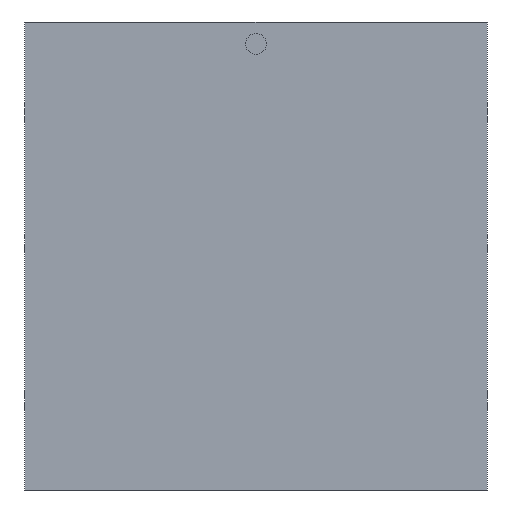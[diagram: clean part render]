
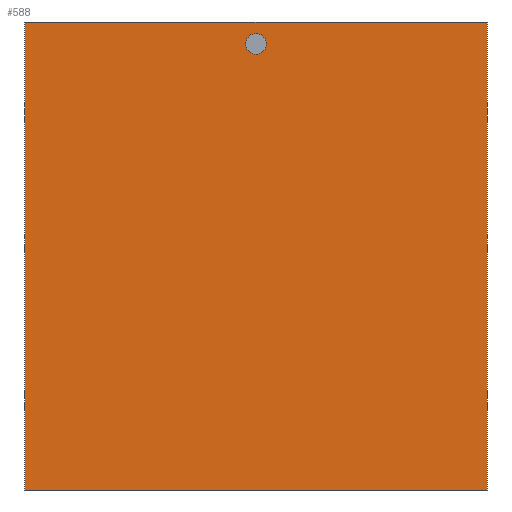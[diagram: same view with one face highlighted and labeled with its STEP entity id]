
A CAD part, front view. The second image highlights one B-rep face of the part: STEP entity #588.
In plain terms, the highlighted planar face has unit normal (0, -1, 0).
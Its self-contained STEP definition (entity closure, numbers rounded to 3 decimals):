
#9 = LINE ( 'NONE', #208, #971 ) ;
#24 = PLANE ( 'NONE',  #313 ) ;
#141 = VERTEX_POINT ( 'NONE', #398 ) ;
#159 = AXIS2_PLACEMENT_3D ( 'NONE', #1360, #1021, #1376 ) ;
#191 = DIRECTION ( 'NONE',  ( 0., 0., -1. ) ) ;
#208 = CARTESIAN_POINT ( 'NONE',  ( 0., 0., 0. ) ) ;
#256 = VERTEX_POINT ( 'NONE', #847 ) ;
#261 = DIRECTION ( 'NONE',  ( 0., 0., -1. ) ) ;
#270 = DIRECTION ( 'NONE',  ( -1., 0., 0. ) ) ;
#277 = VERTEX_POINT ( 'NONE', #1313 ) ;
#313 = AXIS2_PLACEMENT_3D ( 'NONE', #480, #1258, #261 ) ;
#345 = CARTESIAN_POINT ( 'NONE',  ( 40., 0., -5.6 ) ) ;
#367 = ORIENTED_EDGE ( 'NONE', *, *, #760, .F. ) ;
#379 = LINE ( 'NONE', #932, #997 ) ;
#395 = CARTESIAN_POINT ( 'NONE',  ( 0., 0., -81. ) ) ;
#398 = CARTESIAN_POINT ( 'NONE',  ( 40., 0., -2. ) ) ;
#408 = CARTESIAN_POINT ( 'NONE',  ( 0., 0., 0. ) ) ;
#416 = VECTOR ( 'NONE', #984, 1000. ) ;
#432 = CARTESIAN_POINT ( 'NONE',  ( 80., 0., 0. ) ) ;
#480 = CARTESIAN_POINT ( 'NONE',  ( 0., 0., 0. ) ) ;
#494 = LINE ( 'NONE', #432, #416 ) ;
#522 = FACE_OUTER_BOUND ( 'NONE', #904, .T. ) ;
#588 = ADVANCED_FACE ( 'NONE', ( #1162, #522 ), #24, .T. ) ;
#628 = DIRECTION ( 'NONE',  ( 0., -1., 0. ) ) ;
#641 = EDGE_CURVE ( 'NONE', #666, #256, #733, .T. ) ;
#666 = VERTEX_POINT ( 'NONE', #395 ) ;
#718 = EDGE_CURVE ( 'NONE', #1406, #666, #379, .T. ) ;
#733 = LINE ( 'NONE', #408, #1035 ) ;
#760 = EDGE_CURVE ( 'NONE', #141, #1113, #982, .T. ) ;
#800 = CIRCLE ( 'NONE', #159, 1.8 ) ;
#830 = DIRECTION ( 'NONE',  ( 0., 0., 1. ) ) ;
#847 = CARTESIAN_POINT ( 'NONE',  ( 0., 0., 0. ) ) ;
#866 = EDGE_CURVE ( 'NONE', #277, #1406, #494, .T. ) ;
#894 = CARTESIAN_POINT ( 'NONE',  ( 80., 0., -81. ) ) ;
#904 = EDGE_LOOP ( 'NONE', ( #1370, #1394, #1283, #1456 ) ) ;
#932 = CARTESIAN_POINT ( 'NONE',  ( 0., 0., -81. ) ) ;
#971 = VECTOR ( 'NONE', #991, 1000. ) ;
#977 = EDGE_CURVE ( 'NONE', #256, #277, #9, .T. ) ;
#982 = CIRCLE ( 'NONE', #1238, 1.8 ) ;
#984 = DIRECTION ( 'NONE',  ( 0., 0., -1. ) ) ;
#991 = DIRECTION ( 'NONE',  ( 1., 0., 0. ) ) ;
#997 = VECTOR ( 'NONE', #270, 1000. ) ;
#1021 = DIRECTION ( 'NONE',  ( 0., -1., 0. ) ) ;
#1022 = EDGE_CURVE ( 'NONE', #1113, #141, #800, .T. ) ;
#1025 = EDGE_LOOP ( 'NONE', ( #1345, #367 ) ) ;
#1035 = VECTOR ( 'NONE', #830, 1000. ) ;
#1084 = CARTESIAN_POINT ( 'NONE',  ( 40., 0., -3.8 ) ) ;
#1113 = VERTEX_POINT ( 'NONE', #345 ) ;
#1162 = FACE_BOUND ( 'NONE', #1025, .T. ) ;
#1238 = AXIS2_PLACEMENT_3D ( 'NONE', #1084, #628, #191 ) ;
#1258 = DIRECTION ( 'NONE',  ( 0., -1., 0. ) ) ;
#1283 = ORIENTED_EDGE ( 'NONE', *, *, #866, .F. ) ;
#1313 = CARTESIAN_POINT ( 'NONE',  ( 80., 0., 0. ) ) ;
#1345 = ORIENTED_EDGE ( 'NONE', *, *, #1022, .F. ) ;
#1360 = CARTESIAN_POINT ( 'NONE',  ( 40., 0., -3.8 ) ) ;
#1370 = ORIENTED_EDGE ( 'NONE', *, *, #641, .F. ) ;
#1376 = DIRECTION ( 'NONE',  ( 0., 0., -1. ) ) ;
#1394 = ORIENTED_EDGE ( 'NONE', *, *, #718, .F. ) ;
#1406 = VERTEX_POINT ( 'NONE', #894 ) ;
#1456 = ORIENTED_EDGE ( 'NONE', *, *, #977, .F. ) ;
